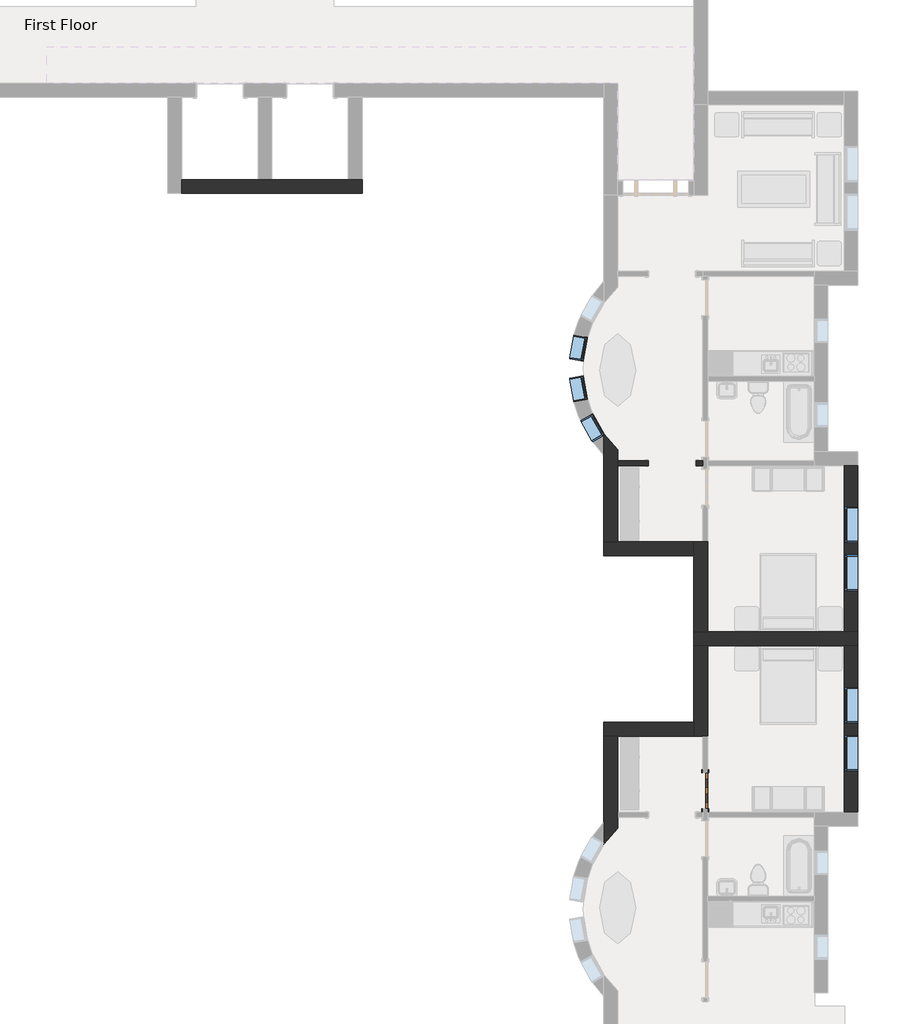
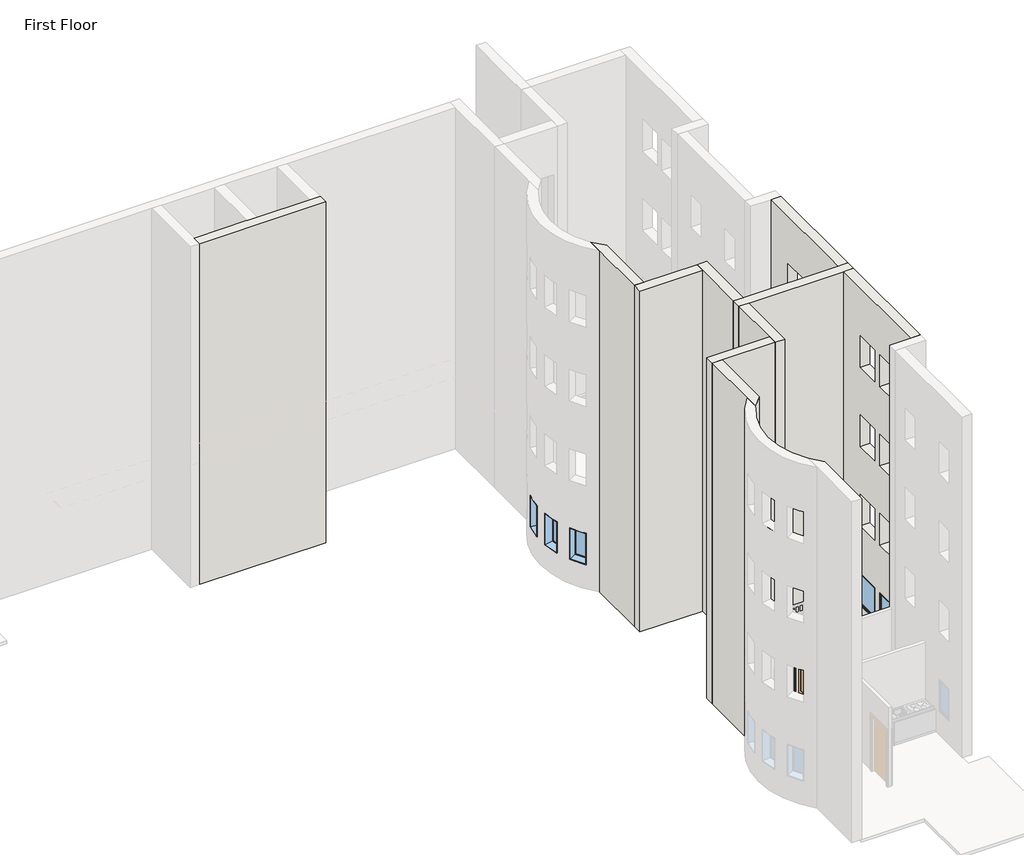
# One storey, part 10 of 21: 12 walls, 7 windows, 1 door.
"""IFC4 building model written with IfcOpenShell, lengths in millimetres."""

from ifc_helpers import new_model, si_unit, frame, origin, origin_with_axes, place, context, project, spatial, polyline, circle_curve, outline, extrude, faceted_brep, transform, mapped, element, save
from ifc_brep_helpers import plane_surface, revolved_surface, advanced_brep
from components import door_2e3b4da2, window_60baf983, window_ed80354a, window_15c49d37, window_0e2fc6ce

model = new_model("IFC4")

# Units and contexts
model_context = context("Model", 3, world=origin())
ifc_project = project(units=[si_unit("LENGTHUNIT", "METRE", prefix="MILLI")], contexts=[model_context])

# Site, building, storey
site = spatial("IfcSite", under=ifc_project)
building = spatial("IfcBuilding", under=site)
storey = spatial("IfcBuildingStorey", under=building, Name="First Floor", Elevation=0.0)

# Door
placement = place(None, origin())
door_shape = door_2e3b4da2(model_context)
element("IfcDoor", 1, ObjectType="Single-Decorative 2 : 36\" x 84\"", at=placement, inside=storey, context=model_context, shape_type="MappedRepresentation", body=[
    mapped(door_shape, transform((-3900.4589563, -15695.1308133, 0.0), x_axis=(0.0, -1.0, 0.0), y_axis=(1.0, 0.0, 0.0), z_axis=(0.0, 0.0, 1.0))),
])

# Walls
element("IfcWall", 2, ObjectType="Exterior - Brick on Mtl. Stud", at=placement, inside=storey, context=model_context, shape_type="Brep", body=[
    faceted_brep([(-17171.9589563, -550.3808133, 0.0), (-12599.9589563, -550.3808133, 0.0), (-12599.9589563, -550.3808133, 13106.4), (-17171.9589563, -550.3808133, 13106.4), (-17171.9589563, -197.9558133, 0.0), (-17171.9589563, -197.9558133, 13106.4), (-15238.3839563, -197.9558133, 13106.4), (-14885.9589563, -197.9558133, 13106.4), (-12952.3839563, -197.9558133, 13106.4), (-12599.9589563, -197.9558133, 13106.4), (-12599.9589563, -197.9558133, 0.0), (-12952.3839563, -197.9558133, 0.0), (-14885.9589563, -197.9558133, 0.0), (-15238.3839563, -197.9558133, 0.0)], [[[0, 1, 2, 3]], [[4, 5, 6, 7, 8, 9, 10, 11, 12, 13]], [[1, 0, 4, 13, 12, 11, 10]], [[3, 2, 9, 8, 7, 6, 5]], [[2, 1, 10, 9]], [[0, 3, 5, 4]]]),
])
element("IfcWall", 3, ObjectType="Exterior - Brick on Mtl. Stud", at=placement, inside=storey, context=model_context, shape_type="Brep", body=[
    faceted_brep([(-26.9589563, -11669.2308133, 0.0), (-379.3839563, -11669.2308133, 0.0), (-3836.9589563, -11669.2308133, 0.0), (-4189.3839563, -11669.2308133, 0.0), (-4189.3839563, -11669.2308133, 13106.4), (-3836.9589563, -11669.2308133, 13106.4), (-379.3839563, -11669.2308133, 13106.4), (-26.9589563, -11669.2308133, 13106.4), (-26.9589563, -12021.6558133, 0.0), (-26.9589563, -12021.6558133, 13106.4), (-379.3839563, -12021.6558133, 13106.4), (-3836.9589563, -12021.6558133, 13106.4), (-4189.3839563, -12021.6558133, 13106.4), (-4189.3839563, -12021.6558133, 0.0), (-3836.9589563, -12021.6558133, 0.0), (-379.3839563, -12021.6558133, 0.0)], [[[0, 1, 2, 3, 4, 5, 6, 7]], [[8, 9, 10, 11, 12, 13, 14, 15]], [[3, 2, 1, 0, 8, 15, 14, 13]], [[7, 6, 5, 4, 12, 11, 10, 9]], [[4, 3, 13, 12]], [[0, 7, 9, 8]]]),
])
element("IfcWall", 4, ObjectType="Exterior - Brick on Mtl. Stud", at=placement, inside=storey, context=model_context, shape_type="Brep", body=[
    faceted_brep([(-3836.9589563, -11669.2308133, 0.0), (-3836.9589563, -9383.2308133, 0.0), (-3836.9589563, -9383.2308133, 3048.0), (-3836.9589563, -9383.2308133, 13106.4), (-3836.9589563, -11669.2308133, 13106.4), (-4189.3839563, -11669.2308133, 0.0), (-4189.3839563, -11669.2308133, 13106.4), (-4189.3839563, -9735.6558133, 13106.4), (-4189.3839563, -9383.2308133, 13106.4), (-4189.3839563, -9383.2308133, 0.0), (-4189.3839563, -9735.6558133, 0.0), (-3963.9589563, -9383.2308133, 0.0)], [[[0, 1, 2, 3, 4]], [[5, 6, 7, 8, 9, 10]], [[1, 0, 5, 10, 9, 11]], [[4, 3, 8, 7, 6]], [[1, 11, 9, 8, 3, 2]], [[0, 4, 6, 5]]]),
])
element("IfcWall", 5, ObjectType="Exterior - Brick on Mtl. Stud", at=placement, inside=storey, context=model_context, shape_type="Brep", body=[
    faceted_brep([(-4189.3839563, -9383.2308133, 0.0), (-6122.9589563, -9383.2308133, 0.0), (-6475.3839563, -9383.2308133, 0.0), (-6475.3839563, -9383.2308133, 13106.4), (-6122.9589563, -9383.2308133, 13106.4), (-4189.3839563, -9383.2308133, 13106.4), (-4189.3839563, -9735.6558133, 0.0), (-4189.3839563, -9735.6558133, 13106.4), (-6475.3839563, -9735.6558133, 13106.4), (-6475.3839563, -9735.6558133, 0.0)], [[[0, 1, 2, 3, 4, 5]], [[6, 7, 8, 9]], [[2, 1, 0, 6, 9]], [[5, 4, 3, 8, 7]], [[3, 2, 9, 8]], [[0, 5, 7, 6]]]),
])
element("IfcWall", 6, ObjectType="Exterior - Brick on Mtl. Stud", at=placement, inside=storey, context=model_context, shape_type="AdvancedBrep", body=[
    advanced_brep(
    [(-6122.9589563, -9383.2308133, 0.0), (-6122.9589563, -7449.6558133, 0.0), (-6122.9589563, -7322.6558133, 0.0), (-6122.9589563, -7047.827661, 0.0), (-6122.9589563, -7047.827661, 13106.4), (-6122.9589563, -9383.2308133, 13106.4), (-6475.3839563, -6633.9339631, 0.0), (-6475.3839563, -7191.8285473, 0.0), (-6475.3839563, -9383.2308133, 0.0), (-6475.3839563, -9383.2308133, 13106.4), (-6475.3839563, -7191.8285473, 13106.4), (-6475.3839563, -6633.9339631, 13106.4), (-6475.3839563, -6633.9339631, 11277.6), (-6475.3839563, -6683.222211, 11277.6), (-6475.3839563, -6683.222211, 10058.4), (-6475.3839563, -6633.9339631, 10058.4), (-6475.3839563, -6633.9339631, 8229.6), (-6475.3839563, -6683.222211, 8229.6), (-6475.3839563, -6683.222211, 7010.4), (-6475.3839563, -6633.9339631, 7010.4), (-6475.3839563, -6633.9339631, 5181.6), (-6475.3839563, -6683.222211, 5181.6), (-6475.3839563, -6683.222211, 3962.4), (-6475.3839563, -6633.9339631, 3962.4), (-6475.3839563, -6633.9339631, 2133.6), (-6475.3839563, -6683.222211, 2133.6), (-6475.3839563, -6683.222211, 914.4), (-6475.3839563, -6633.9339631, 914.4), (-6469.9143656, -6641.7227821, 914.4), (-6469.9143656, -6641.7227821, 2133.6), (-6469.9143656, -6641.7227821, 3962.4), (-6469.9143656, -6641.7227821, 5181.6), (-6469.9143656, -6641.7227821, 7010.4), (-6469.9143656, -6641.7227821, 8229.6), (-6469.9143656, -6641.7227821, 10058.4), (-6469.9143656, -6641.7227821, 11277.6), (-6453.3830671, -6670.6485215, 914.4), (-6453.3830671, -6670.6485215, 2133.6), (-6453.3830671, -6670.6485215, 10058.4), (-6453.3830671, -6670.6485215, 11277.6), (-6453.3830671, -6670.6485215, 3962.4), (-6453.3830671, -6670.6485215, 5181.6), (-6453.3830671, -6670.6485215, 7010.4), (-6453.3830671, -6670.6485215, 8229.6)],
    [
        (0, 1),
        (1, 2),
        (2, 3),
        (3, 4),
        (4, 5),
        (5, 0),
        (6, 7),
        (7, 8),
        (8, 9),
        (9, 10),
        (10, 11),
        (11, 12),
        (12, 13),
        (13, 14),
        (14, 15),
        (15, 16),
        (16, 17),
        (17, 18),
        (18, 19),
        (19, 20),
        (20, 21),
        (21, 22),
        (22, 23),
        (23, 24),
        (24, 25),
        (25, 26),
        (26, 27),
        (27, 6),
        (0, 8),
        (6, 3, circle_curve(frame((-4122.4640713, -4987.4433133, 0.0), z_axis=(0.0, 0.0, 1.0), x_axis=(0.0, 1.0, 0.0)), 2871.7875)),
        (4, 11, circle_curve(frame((-4122.4640713, -4987.4433133, 13106.4), z_axis=(0.0, 0.0, -1.0), x_axis=(0.0, 1.0, 0.0)), 2871.7875)),
        (9, 5),
        (27, 28, circle_curve(frame((-4122.4640713, -4987.4433133, 914.4), z_axis=(0.0, 0.0, 1.0), x_axis=(0.0, 1.0, 0.0)), 2871.7875)),
        (28, 29),
        (29, 24, circle_curve(frame((-4122.4640713, -4987.4433133, 2133.6), z_axis=(0.0, 0.0, -1.0), x_axis=(0.0, 1.0, 0.0)), 2871.7875)),
        (23, 30, circle_curve(frame((-4122.4640713, -4987.4433133, 3962.4), z_axis=(0.0, 0.0, 1.0), x_axis=(0.0, 1.0, 0.0)), 2871.7875)),
        (30, 31),
        (31, 20, circle_curve(frame((-4122.4640713, -4987.4433133, 5181.6), z_axis=(0.0, 0.0, -1.0), x_axis=(0.0, 1.0, 0.0)), 2871.7875)),
        (19, 32, circle_curve(frame((-4122.4640713, -4987.4433133, 7010.4), z_axis=(0.0, 0.0, 1.0), x_axis=(0.0, 1.0, 0.0)), 2871.7875)),
        (32, 33),
        (33, 16, circle_curve(frame((-4122.4640713, -4987.4433133, 8229.6), z_axis=(0.0, 0.0, -1.0), x_axis=(0.0, 1.0, 0.0)), 2871.7875)),
        (15, 34, circle_curve(frame((-4122.4640713, -4987.4433133, 10058.4), z_axis=(0.0, 0.0, 1.0), x_axis=(0.0, 1.0, 0.0)), 2871.7875)),
        (34, 35),
        (35, 12, circle_curve(frame((-4122.4640713, -4987.4433133, 11277.6), z_axis=(0.0, 0.0, -1.0), x_axis=(0.0, 1.0, 0.0)), 2871.7875)),
        (36, 37),
        (37, 29),
        (28, 36),
        (26, 36),
        (25, 37),
        (38, 39),
        (39, 35),
        (34, 38),
        (14, 38),
        (13, 39),
        (40, 41),
        (41, 31),
        (30, 40),
        (22, 40),
        (21, 41),
        (42, 43),
        (43, 33),
        (32, 42),
        (18, 42),
        (17, 43),
    ],
    [
        plane_surface(frame((-6122.9589563, -9559.4433133, 0.0), z_axis=(1.0, 0.0, 0.0), x_axis=(0.0, 1.0, 0.0))),
        plane_surface(frame((-6475.3839563, -9559.4433133, 0.0), z_axis=(-1.0, 0.0, 0.0), x_axis=(0.0, -1.0, 0.0))),
        plane_surface(frame((-6122.9589563, -9559.4433133, 0.0), z_axis=(0.0, 0.0, -1.0), x_axis=(-1.0, 0.0, 0.0))),
        plane_surface(frame((-6122.9589563, -7121.0433133, 13106.4), z_axis=(0.0, 0.0, 1.0), x_axis=(-1.0, 0.0, 0.0))),
        revolved_surface(polyline([(-4122.4640713, -2115.6558133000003, 0.0), (-4122.4640713, -2115.6558133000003, 13106.4)]), (-4122.4640713, -4987.4433133, 0.0), (0.0, 0.0, -1.0)),
        plane_surface(frame((-4013.1714563, -9383.2308133, 0.0), z_axis=(0.0, -1.0, 0.0), x_axis=(-1.0, 0.0, 0.0))),
        plane_surface(frame((-6755.8611513, -6141.3856675, 2133.6), z_axis=(-0.8682133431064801, -0.496191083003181, 0.0), x_axis=(0.0, 0.0, 1.0))),
        plane_surface(frame((-7060.4709271, -6315.4726656, 914.4), z_axis=(0.0, 0.0, 1.0), x_axis=(0.8682133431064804, 0.4961910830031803, 0.0))),
        plane_surface(frame((-6757.9928429, -6844.7355195, 914.4), z_axis=(-0.4961910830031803, 0.8682133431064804, 0.0), x_axis=(0.8682133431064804, 0.4961910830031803, 0.0))),
        plane_surface(frame((-6757.9928429, -6844.7355195, 2133.6), z_axis=(0.0, 0.0, -1.0), x_axis=(0.8682133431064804, 0.4961910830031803, 0.0))),
        plane_surface(frame((-6755.8611513, -6141.3856675, 11277.6), z_axis=(-0.8682133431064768, -0.49619108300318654, 0.0), x_axis=(0.0, 0.0, 1.0))),
        plane_surface(frame((-7060.4709271, -6315.4726656, 10058.4), z_axis=(0.0, 0.0, 1.0), x_axis=(0.8682133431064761, 0.49619108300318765, 0.0))),
        plane_surface(frame((-6757.9928429, -6844.7355195, 10058.4), z_axis=(-0.49619108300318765, 0.8682133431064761, 0.0), x_axis=(0.8682133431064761, 0.49619108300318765, 0.0))),
        plane_surface(frame((-6757.9928429, -6844.7355195, 11277.6), z_axis=(0.0, 0.0, -1.0), x_axis=(0.8682133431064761, 0.49619108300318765, 0.0))),
        plane_surface(frame((-6755.8611513, -6141.3856675, 5181.6), z_axis=(-0.8682133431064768, -0.49619108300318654, 0.0), x_axis=(0.0, 0.0, 1.0))),
        plane_surface(frame((-7060.4709271, -6315.4726656, 3962.4), z_axis=(0.0, 0.0, 1.0), x_axis=(0.8682133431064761, 0.49619108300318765, 0.0))),
        plane_surface(frame((-6757.9928429, -6844.7355195, 3962.4), z_axis=(-0.49619108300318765, 0.8682133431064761, 0.0), x_axis=(0.8682133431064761, 0.49619108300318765, 0.0))),
        plane_surface(frame((-6757.9928429, -6844.7355195, 5181.6), z_axis=(0.0, 0.0, -1.0), x_axis=(0.8682133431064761, 0.49619108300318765, 0.0))),
        plane_surface(frame((-6755.8611513, -6141.3856675, 8229.6), z_axis=(-0.8682133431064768, -0.49619108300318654, 0.0), x_axis=(0.0, 0.0, 1.0))),
        plane_surface(frame((-7060.4709271, -6315.4726656, 7010.4), z_axis=(0.0, 0.0, 1.0), x_axis=(0.8682133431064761, 0.49619108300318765, 0.0))),
        plane_surface(frame((-6757.9928429, -6844.7355195, 7010.4), z_axis=(-0.49619108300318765, 0.8682133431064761, 0.0), x_axis=(0.8682133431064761, 0.49619108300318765, 0.0))),
        plane_surface(frame((-6757.9928429, -6844.7355195, 8229.6), z_axis=(0.0, 0.0, -1.0), x_axis=(0.8682133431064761, 0.49619108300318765, 0.0))),
    ],
    [
        (0, [[1, 2, 3, 4, 5, 6]]),
        (1, [[7, 8, 9, 10, 11, 12, 13, 14, 15, 16, 17, 18, 19, 20, 21, 22, 23, 24, 25, 26, 27, 28]]),
        (2, [[-3, -2, -1, 29, -8, -7, 30]]),
        (3, [[-5, 31, -11, -10, 32]]),
        (4, [[-30, -28, 33, 34, 35, -24, 36, 37, 38, -20, 39, 40, 41, -16, 42, 43, 44, -12, -31, -4]]),
        (5, [[-6, -32, -9, -29]]),
        (6, [[45, 46, -34, 47]]),
        (7, [[48, -47, -33, -27]]),
        (8, [[-45, -48, -26, 49]]),
        (9, [[-49, -25, -35, -46]]),
        (10, [[50, 51, -43, 52]]),
        (11, [[53, -52, -42, -15]]),
        (12, [[-50, -53, -14, 54]]),
        (13, [[-54, -13, -44, -51]]),
        (14, [[55, 56, -37, 57]]),
        (15, [[58, -57, -36, -23]]),
        (16, [[-55, -58, -22, 59]]),
        (17, [[-59, -21, -38, -56]]),
        (18, [[60, 61, -40, 62]]),
        (19, [[63, -62, -39, -19]]),
        (20, [[-60, -63, -18, 64]]),
        (21, [[-64, -17, -41, -61]]),
    ],
),
])
element("IfcWall", 7, ObjectType="Exterior - Brick on Mtl. Stud", at=placement, inside=storey, context=model_context, shape_type="SweptSolid", body=[
    extrude(outline(polyline([(-11669.2308133, 0.0), (-11669.2308133, 13106.4), (-7449.6558133, 13106.4), (-7449.6558133, 0.0), (-11669.2308133, 0.0)]), holes=[polyline([(-9407.0433133, 8229.6), (-9407.0433133, 7010.4), (-8492.6433133, 7010.4), (-8492.6433133, 8229.6), (-9407.0433133, 8229.6)]), polyline([(-10626.2433133, 8229.6), (-10626.2433133, 7010.4), (-9711.8433133, 7010.4), (-9711.8433133, 8229.6), (-10626.2433133, 8229.6)]), polyline([(-9407.0433133, 5181.6), (-9407.0433133, 3962.4), (-8492.6433133, 3962.4), (-8492.6433133, 5181.6), (-9407.0433133, 5181.6)]), polyline([(-10626.2433133, 5181.6), (-10626.2433133, 3962.4), (-9711.8433133, 3962.4), (-9711.8433133, 5181.6), (-10626.2433133, 5181.6)]), polyline([(-9407.0433133, 11277.6), (-9407.0433133, 10058.4), (-8492.6433133, 10058.4), (-8492.6433133, 11277.6), (-9407.0433133, 11277.6)]), polyline([(-10626.2433133, 11277.6), (-10626.2433133, 10058.4), (-9711.8433133, 10058.4), (-9711.8433133, 11277.6), (-10626.2433133, 11277.6)]), polyline([(-9407.0433133, 2133.6), (-9407.0433133, 914.4), (-8492.6433133, 914.4), (-8492.6433133, 2133.6), (-9407.0433133, 2133.6)]), polyline([(-10626.2433133, 2133.6), (-10626.2433133, 914.4), (-9711.8433133, 914.4), (-9711.8433133, 2133.6), (-10626.2433133, 2133.6)])]), frame((-379.3839563, 0.0, 0.0), z_axis=(1.0, 0.0, 0.0), x_axis=(0.0, 1.0, 0.0)), (0.0, 0.0, 1.0), 352.425),
])
element("IfcWall", 8, ObjectType="Exterior - Brick on Mtl. Stud", at=placement, inside=storey, context=model_context, shape_type="SweptSolid", body=[
    extrude(outline(polyline([(-3836.9589563, -11669.2308133), (-379.3839563, -11669.2308133), (-379.3839563, -12021.6558133), (-3836.9589563, -12021.6558133), (-3836.9589563, -11669.2308133)])), origin_with_axes(), (0.0, 0.0, 1.0), 13106.4),
])
element("IfcWall", 9, ObjectType="Exterior - Brick on Mtl. Stud", at=placement, inside=storey, context=model_context, shape_type="Brep", body=[
    faceted_brep([(-4189.3839563, -12021.6558133, 0.0), (-4189.3839563, -13955.2308133, 0.0), (-4189.3839563, -14307.6558133, 0.0), (-4189.3839563, -14307.6558133, 13106.4), (-4189.3839563, -13955.2308133, 13106.4), (-4189.3839563, -12021.6558133, 13106.4), (-3836.9589563, -12021.6558133, 0.0), (-3836.9589563, -12021.6558133, 13106.4), (-3836.9589563, -14307.6558133, 13106.4), (-3836.9589563, -14307.6558133, 3048.0), (-3836.9589563, -14307.6558133, 0.0), (-3963.9589563, -14307.6558133, 0.0)], [[[0, 1, 2, 3, 4, 5]], [[6, 7, 8, 9, 10]], [[2, 1, 0, 6, 10, 11]], [[5, 4, 3, 8, 7]], [[2, 11, 10, 9, 8, 3]], [[0, 5, 7, 6]]]),
])
element("IfcWall", 10, ObjectType="Exterior - Brick on Mtl. Stud", at=placement, inside=storey, context=model_context, shape_type="Brep", body=[
    faceted_brep([(-4189.3839563, -13955.2308133, 0.0), (-6475.3839563, -13955.2308133, 0.0), (-6475.3839563, -13955.2308133, 13106.4), (-4189.3839563, -13955.2308133, 13106.4), (-4189.3839563, -14307.6558133, 0.0), (-4189.3839563, -14307.6558133, 13106.4), (-6122.9589563, -14307.6558133, 13106.4), (-6475.3839563, -14307.6558133, 13106.4), (-6475.3839563, -14307.6558133, 0.0), (-6122.9589563, -14307.6558133, 0.0)], [[[0, 1, 2, 3]], [[4, 5, 6, 7, 8, 9]], [[1, 0, 4, 9, 8]], [[3, 2, 7, 6, 5]], [[2, 1, 8, 7]], [[0, 3, 5, 4]]]),
])
element("IfcWall", 11, ObjectType="Exterior - Brick on Mtl. Stud", at=placement, inside=storey, context=model_context, shape_type="AdvancedBrep", body=[
    advanced_brep(
    [(-6475.3839563, -14307.6558133, 0.0), (-6475.3839563, -16499.0580793, 0.0), (-6475.3839563, -17056.9526635, 0.0), (-6475.3839563, -17056.9526635, 914.4), (-6475.3839563, -17007.6644156, 914.4), (-6475.3839563, -17007.6644156, 2133.6), (-6475.3839563, -17056.9526635, 2133.6), (-6475.3839563, -17056.9526635, 3962.4), (-6475.3839563, -17007.6644156, 3962.4), (-6475.3839563, -17007.6644156, 5181.6), (-6475.3839563, -17056.9526635, 5181.6), (-6475.3839563, -17056.9526635, 7010.4), (-6475.3839563, -17007.6644156, 7010.4), (-6475.3839563, -17007.6644156, 8229.6), (-6475.3839563, -17056.9526635, 8229.6), (-6475.3839563, -17056.9526635, 10058.4), (-6475.3839563, -17007.6644156, 10058.4), (-6475.3839563, -17007.6644156, 11277.6), (-6475.3839563, -17056.9526635, 11277.6), (-6475.3839563, -17056.9526635, 13106.4), (-6475.3839563, -16499.0580793, 13106.4), (-6475.3839563, -14307.6558133, 13106.4), (-6122.9589563, -16643.0589656, 0.0), (-6122.9589563, -16368.2308133, 0.0), (-6122.9589563, -16241.2308133, 0.0), (-6122.9589563, -14307.6558133, 0.0), (-6122.9589563, -14307.6558133, 13106.4), (-6122.9589563, -16643.0589656, 13106.4), (-6469.8279046, -17049.0411617, 11277.6), (-6469.8279046, -17049.0411617, 10058.4), (-6469.8279046, -17049.0411617, 8229.6), (-6469.8279046, -17049.0411617, 7010.4), (-6469.8279046, -17049.0411617, 5181.6), (-6469.8279046, -17049.0411617, 3962.4), (-6469.8279046, -17049.0411617, 2133.6), (-6469.8279046, -17049.0411617, 914.4), (-6453.370745, -17020.2451473, 2133.6), (-6453.370745, -17020.2451473, 914.4), (-6453.370745, -17020.2451473, 11277.6), (-6453.370745, -17020.2451473, 10058.4), (-6453.370745, -17020.2451473, 5181.6), (-6453.370745, -17020.2451473, 3962.4), (-6453.370745, -17020.2451473, 8229.6), (-6453.370745, -17020.2451473, 7010.4)],
    [
        (0, 1),
        (1, 2),
        (2, 3),
        (3, 4),
        (4, 5),
        (5, 6),
        (6, 7),
        (7, 8),
        (8, 9),
        (9, 10),
        (10, 11),
        (11, 12),
        (12, 13),
        (13, 14),
        (14, 15),
        (15, 16),
        (16, 17),
        (17, 18),
        (18, 19),
        (19, 20),
        (20, 21),
        (21, 0),
        (22, 23),
        (23, 24),
        (24, 25),
        (25, 26),
        (26, 27),
        (27, 22),
        (0, 25),
        (22, 2, circle_curve(frame((-4122.4640713, -18703.4433133, 0.0), z_axis=(0.0, 0.0, 1.0), x_axis=(0.0, -1.0, 0.0)), 2871.7875)),
        (19, 27, circle_curve(frame((-4122.4640713, -18703.4433133, 13106.4), z_axis=(0.0, 0.0, -1.0), x_axis=(0.0, -1.0, 0.0)), 2871.7875)),
        (26, 21),
        (18, 28, circle_curve(frame((-4122.4640713, -18703.4433133, 11277.6), z_axis=(0.0, 0.0, -1.0), x_axis=(0.0, -1.0, 0.0)), 2871.7875)),
        (28, 29),
        (29, 15, circle_curve(frame((-4122.4640713, -18703.4433133, 10058.4), z_axis=(0.0, 0.0, 1.0), x_axis=(0.0, -1.0, 0.0)), 2871.7875)),
        (14, 30, circle_curve(frame((-4122.4640713, -18703.4433133, 8229.6), z_axis=(0.0, 0.0, -1.0), x_axis=(0.0, -1.0, 0.0)), 2871.7875)),
        (30, 31),
        (31, 11, circle_curve(frame((-4122.4640713, -18703.4433133, 7010.4), z_axis=(0.0, 0.0, 1.0), x_axis=(0.0, -1.0, 0.0)), 2871.7875)),
        (10, 32, circle_curve(frame((-4122.4640713, -18703.4433133, 5181.6), z_axis=(0.0, 0.0, -1.0), x_axis=(0.0, -1.0, 0.0)), 2871.7875)),
        (32, 33),
        (33, 7, circle_curve(frame((-4122.4640713, -18703.4433133, 3962.4), z_axis=(0.0, 0.0, 1.0), x_axis=(0.0, -1.0, 0.0)), 2871.7875)),
        (6, 34, circle_curve(frame((-4122.4640713, -18703.4433133, 2133.6), z_axis=(0.0, 0.0, -1.0), x_axis=(0.0, -1.0, 0.0)), 2871.7875)),
        (34, 35),
        (35, 3, circle_curve(frame((-4122.4640713, -18703.4433133, 914.4), z_axis=(0.0, 0.0, 1.0), x_axis=(0.0, -1.0, 0.0)), 2871.7875)),
        (36, 37),
        (37, 35),
        (34, 36),
        (37, 4),
        (36, 5),
        (38, 39),
        (39, 29),
        (28, 38),
        (39, 16),
        (38, 17),
        (40, 41),
        (41, 33),
        (32, 40),
        (41, 8),
        (40, 9),
        (42, 43),
        (43, 31),
        (30, 42),
        (43, 12),
        (42, 13),
    ],
    [
        plane_surface(frame((-6475.3839563, -14131.4433133, 0.0), z_axis=(-1.0, 0.0, 0.0), x_axis=(0.0, -1.0, 0.0))),
        plane_surface(frame((-6122.9589563, -14131.4433133, 0.0), z_axis=(1.0, 0.0, 0.0), x_axis=(0.0, 1.0, 0.0))),
        plane_surface(frame((-6475.3839563, -14131.4433133, 0.0), z_axis=(0.0, 0.0, -1.0), x_axis=(1.0, 0.0, 0.0))),
        plane_surface(frame((-6475.3839563, -16569.8433133, 13106.4), z_axis=(0.0, 0.0, 1.0), x_axis=(1.0, 0.0, 0.0))),
        revolved_surface(polyline([(-4122.4640713, -21575.230813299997, 0.0), (-4122.4640713, -21575.230813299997, 13106.4)]), (-4122.4640713, -18703.4433133, 0.0), (0.0, 0.0, -1.0)),
        plane_surface(frame((-4013.1714563, -14307.6558133, 0.0), z_axis=(0.0, 1.0, 0.0), x_axis=(1.0, 0.0, 0.0))),
        plane_surface(frame((-6755.8488292, -17549.5080013, 2133.6), z_axis=(-0.8682133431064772, 0.496191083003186, 0.0), x_axis=(0.0, 0.0, -1.0))),
        plane_surface(frame((-6755.8488292, -17549.5080013, 914.4), z_axis=(0.0, 0.0, 1.0), x_axis=(-0.8682133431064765, 0.49619108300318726, 0.0))),
        plane_surface(frame((-6453.370745, -17020.2451473, 914.4), z_axis=(-0.49619108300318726, -0.8682133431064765, 0.0), x_axis=(-0.8682133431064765, 0.49619108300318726, 0.0))),
        plane_surface(frame((-6453.370745, -17020.2451473, 2133.6), z_axis=(0.0, 0.0, -1.0), x_axis=(-0.8682133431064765, 0.49619108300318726, 0.0))),
        plane_surface(frame((-6755.8488292, -17549.5080013, 11277.6), z_axis=(-0.868213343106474, 0.4961910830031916, 0.0), x_axis=(0.0, 0.0, -1.0))),
        plane_surface(frame((-6755.8488292, -17549.5080013, 10058.4), z_axis=(0.0, 0.0, 1.0), x_axis=(-0.8682133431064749, 0.4961910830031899, 0.0))),
        plane_surface(frame((-6453.370745, -17020.2451473, 10058.4), z_axis=(-0.49619108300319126, -0.8682133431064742, 0.0), x_axis=(-0.8682133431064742, 0.49619108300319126, 0.0))),
        plane_surface(frame((-6453.370745, -17020.2451473, 11277.6), z_axis=(0.0, 0.0, -1.0000000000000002), x_axis=(-0.8682133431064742, 0.49619108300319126, 0.0))),
        plane_surface(frame((-6755.8488292, -17549.5080013, 5181.6), z_axis=(-0.868213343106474, 0.4961910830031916, 0.0), x_axis=(0.0, 0.0, -1.0))),
        plane_surface(frame((-6755.8488292, -17549.5080013, 3962.4), z_axis=(0.0, 0.0, 1.0), x_axis=(-0.8682133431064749, 0.4961910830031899, 0.0))),
        plane_surface(frame((-6453.370745, -17020.2451473, 3962.4), z_axis=(-0.49619108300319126, -0.8682133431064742, 0.0), x_axis=(-0.8682133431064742, 0.49619108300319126, 0.0))),
        plane_surface(frame((-6453.370745, -17020.2451473, 5181.6), z_axis=(0.0, 0.0, -1.0000000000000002), x_axis=(-0.8682133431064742, 0.49619108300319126, 0.0))),
        plane_surface(frame((-6755.8488292, -17549.5080013, 8229.6), z_axis=(-0.868213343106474, 0.4961910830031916, 0.0), x_axis=(0.0, 0.0, -1.0))),
        plane_surface(frame((-6755.8488292, -17549.5080013, 7010.4), z_axis=(0.0, 0.0, 1.0), x_axis=(-0.8682133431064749, 0.4961910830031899, 0.0))),
        plane_surface(frame((-6453.370745, -17020.2451473, 7010.4), z_axis=(-0.49619108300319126, -0.8682133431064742, 0.0), x_axis=(-0.8682133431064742, 0.49619108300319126, 0.0))),
        plane_surface(frame((-6453.370745, -17020.2451473, 8229.6), z_axis=(0.0, 0.0, -1.0000000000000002), x_axis=(-0.8682133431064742, 0.49619108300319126, 0.0))),
    ],
    [
        (0, [[1, 2, 3, 4, 5, 6, 7, 8, 9, 10, 11, 12, 13, 14, 15, 16, 17, 18, 19, 20, 21, 22]]),
        (1, [[23, 24, 25, 26, 27, 28]]),
        (2, [[-2, -1, 29, -25, -24, -23, 30]]),
        (3, [[-21, -20, 31, -27, 32]]),
        (4, [[-30, -28, -31, -19, 33, 34, 35, -15, 36, 37, 38, -11, 39, 40, 41, -7, 42, 43, 44, -3]]),
        (5, [[-22, -32, -26, -29]]),
        (6, [[45, 46, -43, 47]]),
        (7, [[48, -4, -44, -46]]),
        (8, [[-45, 49, -5, -48]]),
        (9, [[-49, -47, -42, -6]]),
        (10, [[50, 51, -34, 52]]),
        (11, [[53, -16, -35, -51]]),
        (12, [[-50, 54, -17, -53]]),
        (13, [[-54, -52, -33, -18]]),
        (14, [[55, 56, -40, 57]]),
        (15, [[58, -8, -41, -56]]),
        (16, [[-55, 59, -9, -58]]),
        (17, [[-59, -57, -39, -10]]),
        (18, [[60, 61, -37, 62]]),
        (19, [[63, -12, -38, -61]]),
        (20, [[-60, 64, -13, -63]]),
        (21, [[-64, -62, -36, -14]]),
    ],
),
])
element("IfcWall", 12, ObjectType="Exterior - Brick on Mtl. Stud", at=placement, inside=storey, context=model_context, shape_type="SweptSolid", body=[
    extrude(outline(polyline([(-12021.6558133, 0.0), (-16241.2308133, 0.0), (-16241.2308133, 13106.4), (-12021.6558133, 13106.4), (-12021.6558133, 0.0)]), holes=[polyline([(-13064.6433133, 2133.6), (-13979.0433133, 2133.6), (-13979.0433133, 914.4), (-13064.6433133, 914.4), (-13064.6433133, 2133.6)]), polyline([(-14283.8433133, 2133.6), (-15198.2433133, 2133.6), (-15198.2433133, 914.4), (-14283.8433133, 914.4), (-14283.8433133, 2133.6)]), polyline([(-13064.6433133, 11277.6), (-13979.0433133, 11277.6), (-13979.0433133, 10058.4), (-13064.6433133, 10058.4), (-13064.6433133, 11277.6)]), polyline([(-14283.8433133, 11277.6), (-15198.2433133, 11277.6), (-15198.2433133, 10058.4), (-14283.8433133, 10058.4), (-14283.8433133, 11277.6)]), polyline([(-13064.6433133, 5181.6), (-13979.0433133, 5181.6), (-13979.0433133, 3962.4), (-13064.6433133, 3962.4), (-13064.6433133, 5181.6)]), polyline([(-14283.8433133, 5181.6), (-15198.2433133, 5181.6), (-15198.2433133, 3962.4), (-14283.8433133, 3962.4), (-14283.8433133, 5181.6)]), polyline([(-13064.6433133, 8229.6), (-13979.0433133, 8229.6), (-13979.0433133, 7010.4), (-13064.6433133, 7010.4), (-13064.6433133, 8229.6)]), polyline([(-14283.8433133, 8229.6), (-15198.2433133, 8229.6), (-15198.2433133, 7010.4), (-14283.8433133, 7010.4), (-14283.8433133, 8229.6)])]), frame((-379.3839563, 0.0, 0.0), z_axis=(1.0, 0.0, 0.0), x_axis=(0.0, 1.0, 0.0)), (0.0, 0.0, 1.0), 352.425),
])
element("IfcWall", 13, ObjectType="Interior - 5\" Partition (2-hr)", at=placement, inside=storey, context=model_context, shape_type="SweptSolid", body=[
    extrude(outline(polyline([(0.0, -6122.9589563), (0.0, -5348.2589563), (2133.6, -5348.2589563), (2133.6, -4129.0589563), (0.0, -4129.0589563), (0.0, -3963.9589563), (3048.0, -3963.9589563), (3048.0, -6122.9589563), (0.0, -6122.9589563)])), frame((0.0, -7449.6558133, 0.0), z_axis=(0.0, 1.0, 0.0), x_axis=(0.0, 0.0, 1.0)), (0.0, 0.0, 1.0), 127.0),
])

# Windows
window_shape = window_60baf983(model_context)
element("IfcWindow", 14, ObjectType="Fixed : 24\" x 48\"", at=placement, inside=storey, context=model_context, shape_type="MappedRepresentation", body=[
    mapped(window_shape, transform((-7118.4751134, -4510.097297, 0.0), x_axis=(-0.16973229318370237, -0.9854902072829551, 0.0), y_axis=(0.9854902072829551, -0.16973229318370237, 0.0), z_axis=(0.0, 0.0, 1.0))),
])
window_2_shape = window_ed80354a(model_context)
element("IfcWindow", 15, ObjectType="Fixed : 24\" x 48\"", at=placement, inside=storey, context=model_context, shape_type="MappedRepresentation", body=[
    mapped(window_2_shape, transform((-6775.1467215, -6459.5900929, 0.0), x_axis=(-0.49619108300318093, 0.86821334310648, 0.0), y_axis=(-0.86821334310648, -0.49619108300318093, 0.0), z_axis=(0.0, 0.0, 1.0))),
])
element("IfcWindow", 16, ObjectType="Fixed : 24\" x 48\"", at=placement, inside=storey, context=model_context, shape_type="MappedRepresentation", body=[
    mapped(window_2_shape, transform((-7118.4751134, -5464.7893296, 0.0), x_axis=(-0.1697322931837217, 0.9854902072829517, 0.0), y_axis=(-0.9854902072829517, -0.1697322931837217, 0.0), z_axis=(0.0, 0.0, 1.0))),
])
window_3_shape = window_15c49d37(model_context)
element("IfcWindow", 17, ObjectType="Fixed : 36\" x 48\"", at=placement, inside=storey, context=model_context, shape_type="MappedRepresentation", body=[
    mapped(window_3_shape, transform((-203.1714563, -13483.7433133, 0.0), x_axis=(0.0, 1.0, 0.0), y_axis=(-1.0, 0.0, 0.0), z_axis=(0.0, 0.0, 1.0))),
])
element("IfcWindow", 18, ObjectType="Fixed : 36\" x 48\"", at=placement, inside=storey, context=model_context, shape_type="MappedRepresentation", body=[
    mapped(window_3_shape, transform((-203.1714563, -14702.9433133, 0.0), x_axis=(0.0, 1.0, 0.0), y_axis=(-1.0, 0.0, 0.0), z_axis=(0.0, 0.0, 1.0))),
])
window_4_shape = window_0e2fc6ce(model_context)
element("IfcWindow", 19, ObjectType="Fixed : 36\" x 48\"", at=placement, inside=storey, context=model_context, shape_type="MappedRepresentation", body=[
    mapped(window_4_shape, transform((-203.1714563, -10207.1433133, 0.0), x_axis=(0.0, -1.0, 0.0), y_axis=(1.0, 0.0, 0.0), z_axis=(0.0, 0.0, 1.0))),
])
element("IfcWindow", 20, ObjectType="Fixed : 36\" x 48\"", at=placement, inside=storey, context=model_context, shape_type="MappedRepresentation", body=[
    mapped(window_4_shape, transform((-203.1714563, -8987.9433133, 0.0), x_axis=(0.0, -1.0, 0.0), y_axis=(1.0, 0.0, 0.0), z_axis=(0.0, 0.0, 1.0))),
])

save(model, "model.ifc")
